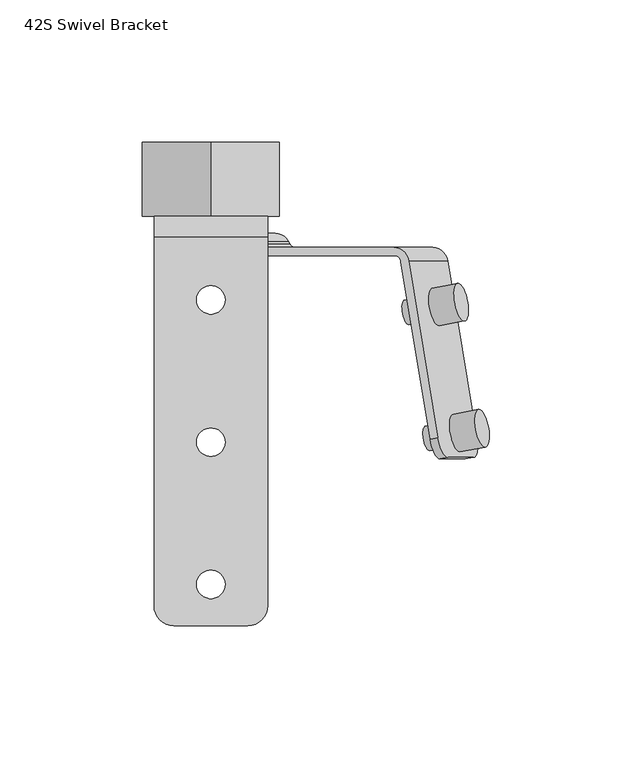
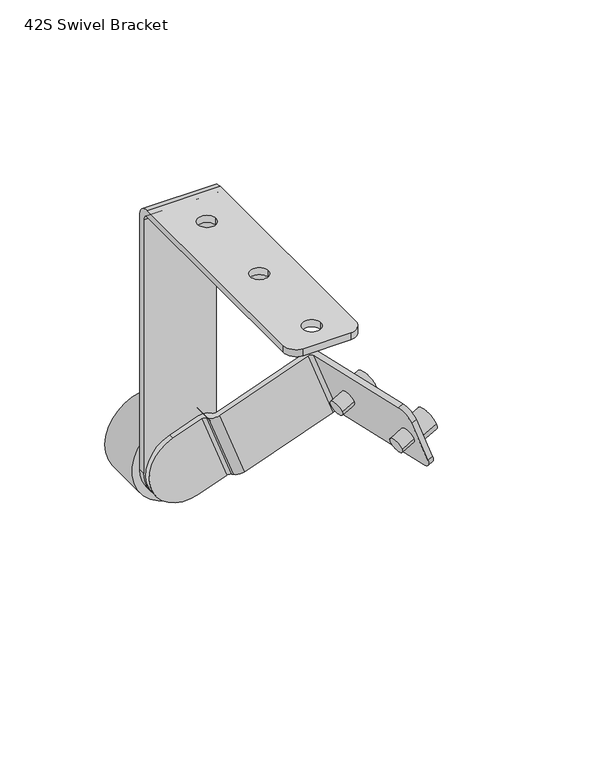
"""IFC4 building model written with IfcOpenShell, lengths in millimetres: proxy geometry, d&b xS-Series 42S Swivel Bracket : 42S Swivel Bracket."""

from ifc_helpers import new_model, si_unit, point, frame, frame_2d, origin, origin_2d, place, context, project, spatial, polyline, circle_curve, trimmed, segment, composite_curve, outline, extrude, source, transform, mapped, element, save
from ifc_brep_helpers import plane_surface, cylinder_surface, revolved_surface, advanced_brep


def proxy_42s_swivel_bracket_c39d419f(model_context):
    return source(origin(), model_context, "Body", "SolidModel", [
        extrude(outline(composite_curve([segment(trimmed(circle_curve(frame_2d((0.0, 6.707269)), 6.7072689), [point((0.0, 13.4145379))], [point((0.0, 0.0))], False, "CARTESIAN"), True, "CONTINUOUS"), segment(trimmed(circle_curve(frame_2d((0.0, 6.707269)), 6.7072689), [point((0.0, 0.0))], [point((0.0, 13.4145379))], False, "CARTESIAN"), True, "CONTINUOUS")], self_intersect=False)), frame((80.1887594, 40.9628223, 28.9903002), z_axis=(0.9254165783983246, 0.17364817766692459, 0.33682408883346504), x_axis=(0.3420201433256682, 0.0, -0.9396926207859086)), (0.0, 0.0, 1.0), 9.6),
        advanced_brep(
        [(13.0021913, -64.5046425, 155.0), (20.0021913, -57.5046425, 155.0), (20.0021913, 72.0953575, 155.0), (-19.9978087, 72.0953575, 155.0), (-19.9978087, -57.53477, 155.0), (-13.0279363, -64.5046425, 155.0), (-5.0, 0.0, 155.0), (5.0, 0.0, 155.0), (-5.0, -50.0, 155.0), (5.0, -50.0, 155.0), (-5.0, 50.0, 155.0), (5.0, 50.0, 155.0), (13.0021913, -64.5046425, 151.0), (-13.0279363, -64.5046425, 151.0), (-19.9978087, -57.53477, 151.0), (-19.9978087, 72.0953575, 151.0), (20.0021913, 72.0953575, 151.0), (20.0021913, -57.5046425, 151.0), (-5.0, 0.0, 151.0), (5.0, 0.0, 151.0), (-5.0, -50.0, 151.0), (5.0, -50.0, 151.0), (-5.0, 50.0, 151.0), (5.0, 50.0, 151.0), (-19.9978087, 79.4953575, 147.6), (-19.9978087, 79.4953575, 0.0), (-19.9978087, 75.4953575, 0.0), (-19.9978087, 75.4953575, 147.6), (20.0021913, 75.4953575, 147.6), (20.0021913, 75.4953575, 0.0), (20.0021913, 79.4953575, 0.0), (20.0021913, 79.4953575, 147.6)],
        [
            (0, 1, circle_curve(frame((13.0021913, -57.5046425, 155.0), z_axis=(0.0, 0.0, 1.0), x_axis=(1.0, 0.0, 0.0)), 7.0)),
            (1, 2),
            (2, 3),
            (3, 4),
            (4, 5, circle_curve(frame((-13.0279363, -57.53477, 155.0), z_axis=(0.0, 0.0, 1.0), x_axis=(1.0, 0.0, 0.0)), 6.9698724)),
            (5, 0),
            (6, 7, circle_curve(frame((0.0, 0.0, 155.0), z_axis=(0.0, 0.0, -1.0), x_axis=(1.0, 0.0, 0.0)), 5.0)),
            (7, 6, circle_curve(frame((0.0, 0.0, 155.0), z_axis=(0.0, 0.0, -1.0), x_axis=(1.0, 0.0, 0.0)), 5.0)),
            (8, 9, circle_curve(frame((0.0, -50.0, 155.0), z_axis=(0.0, 0.0, -1.0), x_axis=(1.0, 0.0, 0.0)), 5.0)),
            (9, 8, circle_curve(frame((0.0, -50.0, 155.0), z_axis=(0.0, 0.0, -1.0), x_axis=(1.0, 0.0, 0.0)), 5.0)),
            (10, 11, circle_curve(frame((0.0, 50.0, 155.0), z_axis=(0.0, 0.0, -1.0), x_axis=(1.0, 0.0, 0.0)), 5.0)),
            (11, 10, circle_curve(frame((0.0, 50.0, 155.0), z_axis=(0.0, 0.0, -1.0), x_axis=(1.0, 0.0, 0.0)), 5.0)),
            (12, 13),
            (13, 14, circle_curve(frame((-13.0279363, -57.53477, 151.0), z_axis=(0.0, 0.0, -1.0), x_axis=(1.0, 0.0, 0.0)), 6.9698724)),
            (14, 15),
            (15, 16),
            (16, 17),
            (17, 12, circle_curve(frame((13.0021913, -57.5046425, 151.0), z_axis=(0.0, 0.0, -1.0), x_axis=(1.0, 0.0, 0.0)), 7.0)),
            (18, 19, circle_curve(frame((0.0, 0.0, 151.0), z_axis=(0.0, 0.0, 1.0), x_axis=(1.0, 0.0, 0.0)), 5.0)),
            (19, 18, circle_curve(frame((0.0, 0.0, 151.0), z_axis=(0.0, 0.0, 1.0), x_axis=(1.0, 0.0, 0.0)), 5.0)),
            (20, 21, circle_curve(frame((0.0, -50.0, 151.0), z_axis=(0.0, 0.0, 1.0), x_axis=(1.0, 0.0, 0.0)), 5.0)),
            (21, 20, circle_curve(frame((0.0, -50.0, 151.0), z_axis=(0.0, 0.0, 1.0), x_axis=(1.0, 0.0, 0.0)), 5.0)),
            (22, 23, circle_curve(frame((0.0, 50.0, 151.0), z_axis=(0.0, 0.0, 1.0), x_axis=(1.0, 0.0, 0.0)), 5.0)),
            (23, 22, circle_curve(frame((0.0, 50.0, 151.0), z_axis=(0.0, 0.0, 1.0), x_axis=(1.0, 0.0, 0.0)), 5.0)),
            (5, 13),
            (12, 0),
            (4, 14),
            (3, 24, circle_curve(frame((-19.9978087, 72.0953575, 147.6), z_axis=(-1.0, 0.0, 0.0), x_axis=(0.0, -1.0, 0.0)), 7.4)),
            (24, 25),
            (25, 26),
            (26, 27),
            (27, 15, circle_curve(frame((-19.9978087, 72.0953575, 147.6), z_axis=(1.0, 0.0, 0.0), x_axis=(0.0, -1.0, 0.0)), 3.4)),
            (1, 17),
            (16, 28, circle_curve(frame((20.0021913, 72.0953575, 147.6), z_axis=(-1.0, 0.0, 0.0), x_axis=(0.0, -1.0, 0.0)), 3.4)),
            (28, 29),
            (29, 30),
            (30, 31),
            (31, 2, circle_curve(frame((20.0021913, 72.0953575, 147.6), z_axis=(1.0, 0.0, 0.0), x_axis=(0.0, -1.0, 0.0)), 7.4)),
            (7, 19),
            (18, 6),
            (9, 21),
            (20, 8),
            (11, 23),
            (22, 10),
            (30, 25, circle_curve(frame((0.0021913, 79.4953575, 0.0), z_axis=(0.0, 1.0, 0.0), x_axis=(1.0, 0.0, 0.0)), 20.0)),
            (24, 31),
            (27, 28),
            (26, 29, circle_curve(frame((0.0021913, 75.4953575, 0.0), z_axis=(0.0, -1.0, 0.0), x_axis=(1.0, 0.0, 0.0)), 20.0)),
        ],
        [
            plane_surface(frame((-19.9978087, -64.5046425, 155.0), z_axis=(0.0, 0.0, 1.0), x_axis=(-1.0, 0.0, 0.0))),
            plane_surface(frame((-19.9978087, -64.5046425, 151.0), z_axis=(0.0, 0.0, -1.0), x_axis=(1.0, 0.0, 0.0))),
            plane_surface(frame((13.0021913, -64.5046425, 155.0), z_axis=(0.0, -1.0, 0.0), x_axis=(0.0, 0.0, -1.0))),
            cylinder_surface(frame((-13.0279363, -57.53477, 151.0), z_axis=(0.0, 0.0, 1.0), x_axis=(1.0, 0.0, 0.0)), 6.9698724),
            plane_surface(frame((-19.9978087, -57.53477, 155.0), z_axis=(-1.0, 0.0, 0.0), x_axis=(0.0, 0.0, -1.0))),
            plane_surface(frame((20.0021913, 72.0953575, 155.0), z_axis=(1.0, 0.0, 0.0), x_axis=(0.0, 0.0, -1.0))),
            cylinder_surface(frame((13.0021913, -57.5046425, 151.0), z_axis=(0.0, 0.0, 1.0), x_axis=(1.0, 0.0, 0.0)), 7.0),
            revolved_surface(polyline([(5.0, 0.0, 151.0), (5.0, 0.0, 155.0)]), (0.0, 0.0, 460.0), (0.0, 0.0, -1.0)),
            revolved_surface(polyline([(5.0, -50.0, 151.0), (5.0, -50.0, 155.0)]), (0.0, -50.0, 460.0), (0.0, 0.0, -1.0)),
            revolved_surface(polyline([(5.0, 50.0, 151.0), (5.0, 50.0, 155.0)]), (0.0, 50.0, 460.0), (0.0, 0.0, -1.0)),
            plane_surface(frame((20.0021913, 79.4953575, 147.6), z_axis=(0.0, 1.0, 0.0), x_axis=(-1.0, 0.0, 0.0))),
            cylinder_surface(frame((-19.9978087, 72.0953575, 147.6), z_axis=(1.0, 0.0, 0.0), x_axis=(0.0, -1.0, 0.0)), 7.4),
            revolved_surface(polyline([(-19.9978087, 68.6953575, 147.6), (20.0021913, 68.6953575, 147.6)]), (-19.9978087, 72.0953575, 147.6), (-1.0, 0.0, 0.0)),
            plane_surface(frame((20.0021913, 75.4953575, 0.0), z_axis=(0.0, -1.0, 0.0), x_axis=(-1.0, 0.0, 0.0))),
            cylinder_surface(frame((0.0021913, 75.4953575, 0.0), z_axis=(0.0, 1.0, 0.0), x_axis=(1.0, 0.0, 0.0)), 20.0),
        ],
        [
            (0, [[1, 2, 3, 4, 5, 6], [7, 8], [9, 10], [11, 12]]),
            (1, [[13, 14, 15, 16, 17, 18], [19, 20], [21, 22], [23, 24]]),
            (2, [[25, -13, 26, -6]]),
            (3, [[27, -14, -25, -5]]),
            (4, [[28, 29, 30, 31, 32, -15, -27, -4]]),
            (5, [[33, -17, 34, 35, 36, 37, 38, -2]]),
            (6, [[-26, -18, -33, -1]]),
            (7, [[39, -19, 40, -8]]),
            (7, [[-40, -20, -39, -7]]),
            (8, [[41, -21, 42, -10]]),
            (8, [[-42, -22, -41, -9]]),
            (9, [[43, -23, 44, -12]]),
            (9, [[-44, -24, -43, -11]]),
            (10, [[45, -29, 46, -37]]),
            (11, [[-46, -28, -3, -38]]),
            (12, [[-16, -32, 47, -34]]),
            (13, [[-47, -31, 48, -35]]),
            (14, [[-36, -48, -30, -45]]),
        ],
    ),
        extrude(outline(composite_curve([segment(trimmed(circle_curve(origin_2d(), 9.4940159), [point((-9.4940159, 0.0))], [point((9.4940159, 0.0))], False, "CARTESIAN"), True, "CONTINUOUS"), segment(trimmed(circle_curve(origin_2d(), 9.4940159), [point((9.4940159, 0.0))], [point((-9.4940159, 0.0))], False, "CARTESIAN"), True, "CONTINUOUS")], self_intersect=False), holes=[composite_curve([segment(trimmed(circle_curve(origin_2d(), 6.0264841), [point((-6.0264841, 0.0))], [point((6.0264841, 0.0))], True, "CARTESIAN"), True, "CONTINUOUS"), segment(trimmed(circle_curve(origin_2d(), 6.0264841), [point((6.0264841, 0.0))], [point((-6.0264841, 0.0))], True, "CARTESIAN"), True, "CONTINUOUS")], self_intersect=False)]), frame((0.0, 0.0, 143.4), z_axis=(0.0, 0.0, 1.0), x_axis=(1.0, 0.0, 0.0)), (0.0, 0.0, 1.0), 7.6),
        extrude(outline(composite_curve([segment(trimmed(circle_curve(frame_2d((0.0, 6.7072689)), 6.7072689), [point((-1e-07, 13.4145378))], [point((0.0, 0.0))], False, "CARTESIAN"), True, "CONTINUOUS"), segment(trimmed(circle_curve(frame_2d((0.0, 6.7072689)), 6.7072689), [point((0.0, 0.0))], [point((-1e-07, 13.4145378))], False, "CARTESIAN"), True, "CONTINUOUS")], self_intersect=False)), frame((87.5316754, -3.3535265, 31.662903), z_axis=(0.9254165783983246, 0.17364817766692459, 0.33682408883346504), x_axis=(0.3420201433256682, 0.0, -0.9396926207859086)), (0.0, 0.0, 1.0), 9.6),
        advanced_brep(
        [(6.842462, 70.4953575, -18.7931029), (22.6658895, 70.4953575, -13.0338464), (8.9850837, 70.4953575, 24.5538585), (-6.8383437, 70.4953575, 18.7946019), (-6.8383437, 73.4953575, 18.7946019), (8.9301199, 73.4953575, 24.5338533), (22.6109256, 73.4953575, -13.0538516), (6.842462, 73.4953575, -18.7931029), (77.0431158, 1.0074858, 49.3249564), (79.8193656, 1.5284303, 50.3354286), (69.4901604, 63.8677873, 46.5759054), (64.3078275, 68.4953575, 44.6896905), (16.0407589, 68.4953575, 27.1219142), (14.0119763, 69.7366012, 26.3834978), (13.4777546, 70.7130373, 26.1890569), (11.0415217, 69.203566, 25.3023407), (11.548088, 68.2776777, 25.4867158), (16.0957227, 65.4953575, 27.1419194), (64.7365761, 65.4953575, 44.8457422), (66.7050032, 63.4006011, 45.5621911), (93.5001713, 1.5284303, 12.7477238), (90.7239216, 1.0074858, 11.7372515), (80.385809, 63.4006011, 7.9744863), (78.4173818, 65.4953575, 7.2580374), (29.7765285, 65.4953575, -10.4457854), (25.2288938, 68.2776777, -12.1009891), (24.7223275, 69.203566, -12.2853641), (27.1585603, 70.7130373, -11.3986479), (27.6927821, 69.7366012, -11.2042071), (29.7215646, 68.4953575, -10.4657906), (77.9886332, 68.4953575, 7.1019857), (83.1709661, 63.8677873, 8.9882006), (89.4720119, -5.8861685, 18.7308381), (80.5794882, -5.8861685, 43.1628462), (83.355738, -5.365224, 44.1733185), (92.2482617, -5.365224, 19.7413104)],
        [
            (0, 1),
            (1, 2),
            (2, 3),
            (3, 0, circle_curve(frame((0.0020592, 70.4953575, 0.0007495), z_axis=(0.0, -1.0, 0.0), x_axis=(0.9396926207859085, 0.0, 0.3420201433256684)), 20.0)),
            (4, 5),
            (5, 6),
            (6, 7),
            (7, 4, circle_curve(frame((0.0020592, 73.4953575, 0.0007495), z_axis=(0.0, 1.0, 0.0), x_axis=(0.9396926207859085, 0.0, 0.3420201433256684)), 20.0)),
            (3, 4),
            (7, 0),
            (8, 9),
            (9, 10),
            (10, 11, circle_curve(frame((64.3078275, 62.8953575, 44.6896905), z_axis=(-0.3420201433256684, 0.0, 0.9396926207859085), x_axis=(-0.9396926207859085, 0.0, -0.3420201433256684)), 5.6)),
            (11, 12),
            (12, 13, circle_curve(frame((16.0407589, 70.9936194, 27.1219142), z_axis=(0.3420201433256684, 0.0, -0.9396926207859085), x_axis=(-0.9396926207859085, 0.0, -0.3420201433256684)), 2.4982619)),
            (13, 14),
            (14, 5, circle_curve(frame((8.9301199, 67.8953575, 24.5338533), z_axis=(-0.3420201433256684, 0.0, 0.9396926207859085), x_axis=(-0.9396926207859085, 0.0, -0.3420201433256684)), 5.6)),
            (2, 15, circle_curve(frame((8.9290007, 67.8946641, 24.5334459), z_axis=(0.3420201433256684, 0.0, -0.9396926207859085), x_axis=(-0.9396926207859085, 0.0, -0.3420201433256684)), 2.6013781)),
            (15, 16),
            (16, 17, circle_curve(frame((16.0957227, 71.0953575, 27.1419194), z_axis=(-0.3420201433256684, 0.0, 0.9396926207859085), x_axis=(-0.9396926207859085, 0.0, -0.3420201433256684)), 5.6)),
            (17, 18),
            (18, 19, circle_curve(frame((64.7365761, 63.4006011, 44.8457422), z_axis=(0.3420201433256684, 0.0, -0.9396926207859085), x_axis=(-0.9396926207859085, 0.0, -0.3420201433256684)), 2.0947564)),
            (19, 8),
            (20, 21),
            (21, 22),
            (22, 23, circle_curve(frame((78.4173818, 63.4006011, 7.2580374), z_axis=(-0.3420201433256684, 0.0, 0.9396926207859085), x_axis=(-0.9396926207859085, 0.0, -0.3420201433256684)), 2.0947564)),
            (23, 24),
            (24, 25, circle_curve(frame((29.7765285, 71.0953575, -10.4457854), z_axis=(0.3420201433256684, 0.0, -0.9396926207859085), x_axis=(-0.9396926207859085, 0.0, -0.3420201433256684)), 5.6)),
            (25, 26),
            (26, 1, circle_curve(frame((22.6098065, 67.8946641, -13.0542589), z_axis=(-0.3420201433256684, 0.0, 0.9396926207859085), x_axis=(-0.9396926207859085, 0.0, -0.3420201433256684)), 2.6013781)),
            (6, 27, circle_curve(frame((22.6109256, 67.8953575, -13.0538516), z_axis=(0.3420201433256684, 0.0, -0.9396926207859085), x_axis=(-0.9396926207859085, 0.0, -0.3420201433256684)), 5.6)),
            (27, 28),
            (28, 29, circle_curve(frame((29.7215646, 70.9936194, -10.4657906), z_axis=(-0.3420201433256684, 0.0, 0.9396926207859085), x_axis=(-0.9396926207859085, 0.0, -0.3420201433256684)), 2.4982619)),
            (29, 30),
            (30, 31, circle_curve(frame((77.9886332, 62.8953575, 7.1019857), z_axis=(0.3420201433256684, 0.0, -0.9396926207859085), x_axis=(-0.9396926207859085, 0.0, -0.3420201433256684)), 5.6)),
            (31, 20),
            (19, 22),
            (21, 32, circle_curve(frame((88.3297806, 1.0074858, 18.3150999), z_axis=(-0.9254165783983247, -0.17364817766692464, -0.3368240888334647), x_axis=(0.16317591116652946, -0.9848077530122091, 0.059391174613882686)), 7.0)),
            (32, 33),
            (33, 8, circle_curve(frame((79.4372568, 1.0074858, 42.747108), z_axis=(-0.9254165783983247, -0.17364817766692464, -0.3368240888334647), x_axis=(0.16317591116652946, -0.9848077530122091, 0.059391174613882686)), 7.0)),
            (18, 23),
            (17, 24),
            (16, 25),
            (15, 26),
            (14, 27),
            (13, 28),
            (12, 29),
            (11, 30),
            (10, 31),
            (9, 34, circle_curve(frame((82.2135066, 1.5284303, 43.7575803), z_axis=(0.9254165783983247, 0.17364817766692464, 0.3368240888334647), x_axis=(0.16317591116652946, -0.9848077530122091, 0.059391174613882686)), 7.0)),
            (34, 35),
            (35, 20, circle_curve(frame((91.1060303, 1.5284303, 19.3255721), z_axis=(0.9254165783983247, 0.17364817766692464, 0.3368240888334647), x_axis=(0.16317591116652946, -0.9848077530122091, 0.059391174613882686)), 7.0)),
            (33, 34),
            (32, 35),
        ],
        [
            plane_surface(frame((18.7959116, 70.4953575, 6.8411523), z_axis=(0.0, -1.0, 0.0), x_axis=(0.3420201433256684, 0.0, -0.9396926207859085))),
            plane_surface(frame((18.7959116, 73.4953575, 6.8411523), z_axis=(0.0, 1.0, 0.0), x_axis=(-0.3420201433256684, 0.0, 0.9396926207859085))),
            cylinder_surface(frame((0.0020592, 73.4953575, 0.0007495), z_axis=(0.0, -1.0, 0.0), x_axis=(0.9396926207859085, 0.0, 0.3420201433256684)), 20.0),
            plane_surface(frame((66.7050032, 63.4006011, 45.5621911), z_axis=(-0.3420201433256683, 0.0, 0.9396926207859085), x_axis=(-0.16317591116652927, 0.9848077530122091, -0.0593911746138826))),
            plane_surface(frame((80.385809, 63.4006011, 7.9744863), z_axis=(0.3420201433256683, 0.0, -0.9396926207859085), x_axis=(0.16317591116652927, -0.9848077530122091, 0.0593911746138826))),
            plane_surface(frame((77.0431158, 1.0074858, 49.3249564), z_axis=(-0.9254165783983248, -0.1736481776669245, -0.33682408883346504), x_axis=(0.34202014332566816, 0.0, -0.9396926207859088))),
            revolved_surface(polyline([(76.44895467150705, 63.4006011, 6.54158850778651), (62.76814894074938, 63.4006011, 44.12929333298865)]), (78.4173818, 63.4006011, 7.2580374), (0.3420201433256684, 0.0, -0.9396926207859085)),
            plane_surface(frame((64.7365761, 65.4953575, 44.8457422), z_axis=(0.0, -1.0, 0.0), x_axis=(0.3420201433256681, 0.0, -0.9396926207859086))),
            cylinder_surface(frame((29.7765285, 71.0953575, -10.4457854), z_axis=(-0.3420201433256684, 0.0, 0.9396926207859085), x_axis=(-0.9396926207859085, 0.0, -0.3420201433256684)), 5.6),
            plane_surface(frame((11.548088, 68.2776777, 25.4867158), z_axis=(-0.8120776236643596, -0.5031571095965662, -0.29557208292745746), x_axis=(0.34202014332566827, 0.0, -0.9396926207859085))),
            revolved_surface(polyline([(20.16531070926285, 67.8946641, -13.943982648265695), (6.484504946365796, 67.8946641, 23.643722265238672)]), (22.6098065, 67.8946641, -13.0542589), (0.3420201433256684, 0.0, -0.9396926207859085)),
            cylinder_surface(frame((22.6109256, 67.8953575, -13.0538516), z_axis=(-0.3420201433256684, 0.0, 0.9396926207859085), x_axis=(-0.9396926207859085, 0.0, -0.3420201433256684)), 5.6),
            plane_surface(frame((13.4777546, 70.7130373, 26.1890569), z_axis=(0.8120776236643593, 0.5031571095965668, 0.29557208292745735), x_axis=(0.34202014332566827, 0.0, -0.9396926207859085))),
            revolved_surface(polyline([(27.37396634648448, 70.9936194, -11.320246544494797), (13.693160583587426, 70.9936194, 26.267458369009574)]), (29.7215646, 70.9936194, -10.4657906), (0.3420201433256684, 0.0, -0.9396926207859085)),
            plane_surface(frame((16.0407589, 68.4953575, 27.1219142), z_axis=(0.0, 1.0, 0.0), x_axis=(0.34202014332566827, 0.0, -0.9396926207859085))),
            cylinder_surface(frame((77.9886332, 62.8953575, 7.1019857), z_axis=(-0.3420201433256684, 0.0, 0.9396926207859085), x_axis=(-0.9396926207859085, 0.0, -0.3420201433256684)), 5.6),
            plane_surface(frame((69.4901604, 63.8677873, 46.5759054), z_axis=(0.9254165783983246, 0.17364817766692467, 0.33682408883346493), x_axis=(0.3420201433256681, 0.0, -0.9396926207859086))),
            cylinder_surface(frame((82.2135066, 1.5284303, 43.7575803), z_axis=(-0.9254165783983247, -0.17364817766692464, -0.3368240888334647), x_axis=(0.16317591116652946, -0.9848077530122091, 0.059391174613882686)), 7.0),
            plane_surface(frame((80.5794882, -5.8861685, 43.1628462), z_axis=(0.16317591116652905, -0.9848077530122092, 0.05939117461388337), x_axis=(0.9254165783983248, 0.17364817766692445, 0.3368240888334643))),
            cylinder_surface(frame((91.1060303, 1.5284303, 19.3255721), z_axis=(-0.9254165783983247, -0.17364817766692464, -0.3368240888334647), x_axis=(0.16317591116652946, -0.9848077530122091, 0.059391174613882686)), 7.0),
        ],
        [
            (0, [[1, 2, 3, 4]]),
            (1, [[5, 6, 7, 8]]),
            (2, [[9, -8, 10, -4]]),
            (3, [[11, 12, 13, 14, 15, 16, 17, -5, -9, -3, 18, 19, 20, 21, 22, 23]]),
            (4, [[24, 25, 26, 27, 28, 29, 30, -1, -10, -7, 31, 32, 33, 34, 35, 36]]),
            (5, [[37, -25, 38, 39, 40, -23]]),
            (6, [[41, -26, -37, -22]]),
            (7, [[42, -27, -41, -21]]),
            (8, [[43, -28, -42, -20]]),
            (9, [[44, -29, -43, -19]]),
            (10, [[-2, -30, -44, -18]]),
            (11, [[45, -31, -6, -17]]),
            (12, [[46, -32, -45, -16]]),
            (13, [[47, -33, -46, -15]]),
            (14, [[48, -34, -47, -14]]),
            (15, [[49, -35, -48, -13]]),
            (16, [[50, 51, 52, -36, -49, -12]]),
            (17, [[53, -50, -11, -40]]),
            (18, [[54, -51, -53, -39]]),
            (19, [[-24, -52, -54, -38]]),
        ],
    ),
        extrude(outline(composite_curve([segment(trimmed(circle_curve(frame_2d((0.0, 4.375)), 4.375), [point((0.0, 8.75))], [point((0.0, 0.0))], False, "CARTESIAN"), True, "CONTINUOUS"), segment(trimmed(circle_curve(frame_2d((0.0, 4.375)), 4.375), [point((0.0, 0.0))], [point((0.0, 8.75))], False, "CARTESIAN"), True, "CONTINUOUS")], self_intersect=False)), frame((69.5360652, 41.3321641, 25.1130366), z_axis=(0.9254165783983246, 0.17364817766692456, 0.33682408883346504), x_axis=(0.3420201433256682, 0.0, -0.9396926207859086)), (0.0, 0.0, 1.0), 8.1),
        extrude(outline(composite_curve([segment(trimmed(circle_curve(frame_2d((0.0, 4.375)), 4.375), [point((-1e-07, 8.75))], [point((0.0, 0.0))], False, "CARTESIAN"), True, "CONTINUOUS"), segment(trimmed(circle_curve(frame_2d((0.0, 4.375)), 4.375), [point((0.0, 0.0))], [point((-1e-07, 8.75))], False, "CARTESIAN"), True, "CONTINUOUS")], self_intersect=False)), frame((76.8789812, -2.9841848, 27.7856394), z_axis=(0.9254165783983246, 0.17364817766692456, 0.33682408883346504), x_axis=(0.3420201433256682, 0.0, -0.9396926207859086)), (0.0, 0.0, 1.0), 8.1),
        advanced_brep(
        [(0.0, 79.4953575, -24.1351733), (0.0, 79.4953575, 0.0), (0.0, 79.4953575, 24.1351733), (0.0, 105.4217862, -24.1351733), (0.0, 105.4217862, 24.1351733), (0.0, 105.4217862, 0.0)],
        [
            (0, 1),
            (1, 2),
            (2, 0, circle_curve(frame((0.0, 79.4953575, 0.0), z_axis=(0.0, -1.0, 0.0), x_axis=(0.0, 0.0, 1.0)), 24.1351733)),
            (0, 2, circle_curve(frame((0.0, 79.4953575, 0.0), z_axis=(0.0, -1.0, 0.0), x_axis=(0.0, 0.0, 1.0)), 24.1351733)),
            (3, 0),
            (2, 4),
            (4, 3, circle_curve(frame((0.0, 105.4217862, 0.0), z_axis=(0.0, -1.0, 0.0), x_axis=(0.0, 0.0, 1.0)), 24.1351733)),
            (3, 4, circle_curve(frame((0.0, 105.4217862, 0.0), z_axis=(0.0, -1.0, 0.0), x_axis=(0.0, 0.0, 1.0)), 24.1351733)),
            (5, 3),
            (4, 5),
        ],
        [
            plane_surface(frame((0.0, 79.4953575, 0.0), z_axis=(0.0, -1.0, 0.0), x_axis=(0.0, 0.0, 1.0))),
            cylinder_surface(frame((0.0, 115.4217862, 0.0), z_axis=(0.0, 1.0, 0.0), x_axis=(0.0, 0.0, 1.0)), 24.1351733),
            plane_surface(frame((0.0, 105.4217862, 0.0), z_axis=(0.0, 1.0, 0.0), x_axis=(0.0, 0.0, 1.0))),
        ],
        [
            (0, [[1, 2, 3]]),
            (0, [[-2, -1, 4]]),
            (1, [[5, -3, 6, 7]]),
            (1, [[-6, -4, -5, 8]]),
            (2, [[9, -7, 10]]),
            (2, [[-10, -8, -9]]),
        ],
    ),
    ])


if __name__ == "__main__":
    model = new_model("IFC4")
    model_context = context("Model", 3, world=origin())
    ifc_project = project(units=[si_unit("LENGTHUNIT", "METRE", prefix="MILLI")], contexts=[model_context])
    site = spatial("IfcSite", under=ifc_project)
    building = spatial("IfcBuilding", under=site)
    placement = place(None, origin())
    proxy_42s_swivel_bracket_shape = proxy_42s_swivel_bracket_c39d419f(model_context)
    element("IfcBuildingElementProxy", 1, Name="d&b xS-Series 42S Swivel Bracket : 42S Swivel Bracket", ObjectType="d&b xS-Series 42S Swivel Bracket : 42S Swivel Bracket", at=placement, inside=building, context=model_context, shape_type="MappedRepresentation", body=[
        mapped(proxy_42s_swivel_bracket_shape, transform((0.0, 0.0, 0.0), x_axis=(1.0, 0.0, 0.0), y_axis=(0.0, 1.0, 0.0), z_axis=(0.0, 0.0, 1.0))),
    ])
    save(model, "model.ifc")
